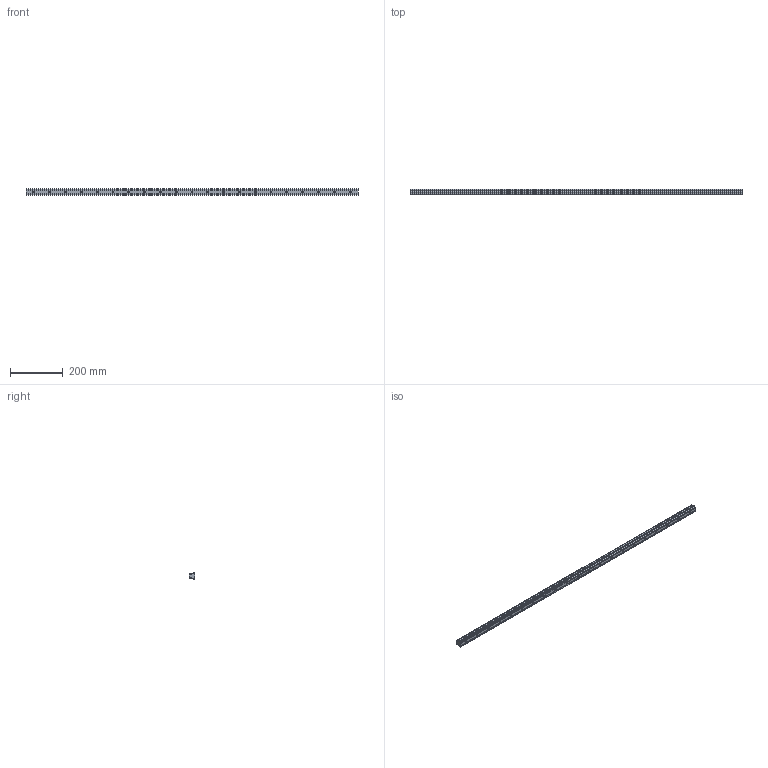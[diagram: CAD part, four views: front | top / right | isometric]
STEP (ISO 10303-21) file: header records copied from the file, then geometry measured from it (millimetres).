
FILE_DESCRIPTION (( 'STEP AP203' ), '1' );
FILE_NAME ('L1018.25R-1260.step', '2023-08-06T10:36:27', ( '' ), ( '' ), 'SwSTEP 2.0', 'SolidWorks 2019', '' );
FILE_SCHEMA (( 'CONFIG_CONTROL_DESIGN' ));
Length unit declared in the file: millimetre
Products named in the file (1): L1018.25R-1260
Bounding box: 1260 x 21.8 x 25 mm (x, y, z)
Volume: 524019 mm3; surface area: 125963 mm2
Topology: 1 solids, 1 shells, 218 faces, 501 edges, 285 vertices
Faces by surface type: cylinder 87, cone 84, plane 47
Entity records: 5912 total; most frequent: DIRECTION 1113, CARTESIAN_POINT 963, ORIENTED_EDGE 918, EDGE_CURVE 459, AXIS2_PLACEMENT_3D 435, VERTEX_POINT 285, EDGE_LOOP 260, LINE 243
